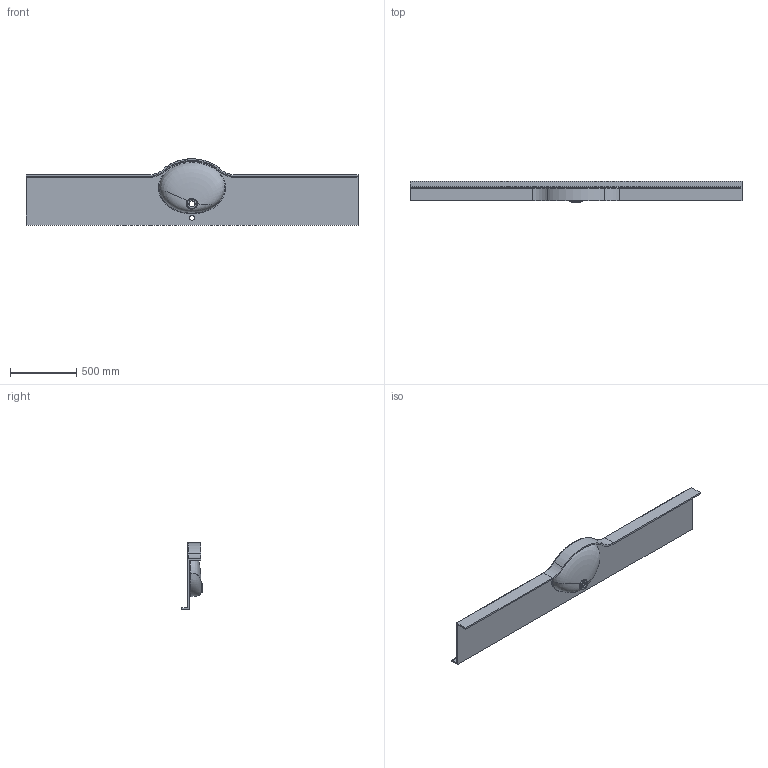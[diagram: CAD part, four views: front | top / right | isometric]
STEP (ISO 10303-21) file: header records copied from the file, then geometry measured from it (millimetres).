
FILE_DESCRIPTION (( 'STEP AP203' ), '1' );
FILE_NAME ('Sinus.STEP', '2025-01-14T15:35:41', ( '' ), ( '' ), 'SwSTEP 2.0', 'SolidWorks 2021', '' );
FILE_SCHEMA (( 'CONFIG_CONTROL_DESIGN' ));
Products named in the file (1): Sinus
Bounding box: 2500 x 165 x 499.52 mm (x, y, z)
Volume: 16854148.2 mm3; surface area: 2842188.4 mm2
Topology: 1 solids, 1 shells, 53 faces, 142 edges, 92 vertices
Faces by surface type: bspline 20, cylinder 16, plane 13, torus 4
Entity records: 38557 total; most frequent: CARTESIAN_POINT 37279, ORIENTED_EDGE 284, DIRECTION 204, EDGE_CURVE 142, VERTEX_POINT 92, AXIS2_PLACEMENT_3D 78, EDGE_LOOP 58, ADVANCED_FACE 53
